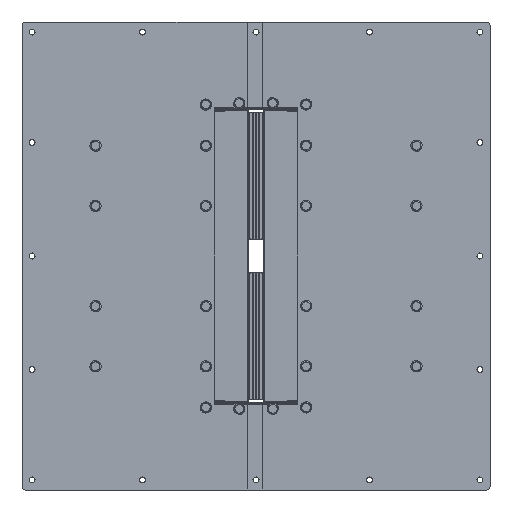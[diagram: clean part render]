
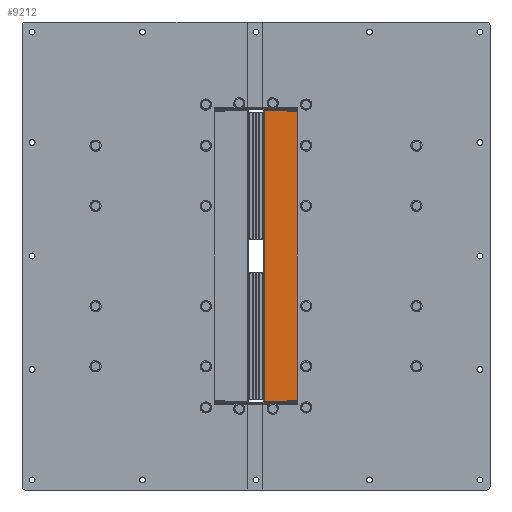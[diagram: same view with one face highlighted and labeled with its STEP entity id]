
A CAD part, left-side view. The second image highlights one B-rep face of the part: STEP entity #9212.
In plain terms, the highlighted planar face has unit normal (-1, 0, 0).
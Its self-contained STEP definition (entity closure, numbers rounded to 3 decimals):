
#8278=AXIS2_PLACEMENT_3D('Plane Axis2P3D',#8275,#8276,#8277) ;
#8412=AXIS2_PLACEMENT_3D('Circle Axis2P3D',#8410,#8411,$) ;
#8474=AXIS2_PLACEMENT_3D('Circle Axis2P3D',#8472,#8473,$) ;
#8750=AXIS2_PLACEMENT_3D('Circle Axis2P3D',#8748,#8749,$) ;
#8798=AXIS2_PLACEMENT_3D('Circle Axis2P3D',#8796,#8797,$) ;
#9106=AXIS2_PLACEMENT_3D('Circle Axis2P3D',#9104,#9105,$) ;
#9115=AXIS2_PLACEMENT_3D('Circle Axis2P3D',#9113,#9114,$) ;
#9124=AXIS2_PLACEMENT_3D('Circle Axis2P3D',#9122,#9123,$) ;
#9133=AXIS2_PLACEMENT_3D('Circle Axis2P3D',#9131,#9132,$) ;
#9142=AXIS2_PLACEMENT_3D('Circle Axis2P3D',#9140,#9141,$) ;
#9151=AXIS2_PLACEMENT_3D('Circle Axis2P3D',#9149,#9150,$) ;
#9160=AXIS2_PLACEMENT_3D('Circle Axis2P3D',#9158,#9159,$) ;
#9169=AXIS2_PLACEMENT_3D('Circle Axis2P3D',#9167,#9168,$) ;
#9178=AXIS2_PLACEMENT_3D('Circle Axis2P3D',#9176,#9177,$) ;
#9187=AXIS2_PLACEMENT_3D('Circle Axis2P3D',#9185,#9186,$) ;
#9196=AXIS2_PLACEMENT_3D('Circle Axis2P3D',#9194,#9195,$) ;
#9205=AXIS2_PLACEMENT_3D('Circle Axis2P3D',#9203,#9204,$) ;
#8275=CARTESIAN_POINT('Axis2P3D Location',(0.,0.,0.)) ;
#8316=CARTESIAN_POINT('Vertex',(0.,-60.,218.5)) ;
#8321=CARTESIAN_POINT('Line Origine',(0.,-60.,229.25)) ;
#8325=CARTESIAN_POINT('Vertex',(0.,-60.,240.)) ;
#8379=CARTESIAN_POINT('Line Origine',(0.,-69.,240.)) ;
#8383=CARTESIAN_POINT('Vertex',(0.,-78.,240.)) ;
#8410=CARTESIAN_POINT('Axis2P3D Location',(0.,-78.,235.)) ;
#8414=CARTESIAN_POINT('Vertex',(0.,-83.,235.)) ;
#8441=CARTESIAN_POINT('Line Origine',(0.,-83.,0.)) ;
#8445=CARTESIAN_POINT('Vertex',(0.,-83.,-235.)) ;
#8472=CARTESIAN_POINT('Axis2P3D Location',(0.,-78.,-235.)) ;
#8476=CARTESIAN_POINT('Vertex',(0.,-78.,-240.)) ;
#8503=CARTESIAN_POINT('Line Origine',(0.,-69.,-240.)) ;
#8507=CARTESIAN_POINT('Vertex',(0.,-60.,-240.)) ;
#8529=CARTESIAN_POINT('Line Origine',(0.,-60.,-229.25)) ;
#8533=CARTESIAN_POINT('Vertex',(0.,-60.,-218.5)) ;
#8573=CARTESIAN_POINT('Vertex',(0.,-57.5,217.)) ;
#8576=CARTESIAN_POINT('Line Origine',(0.,-57.5,217.75)) ;
#8580=CARTESIAN_POINT('Vertex',(0.,-57.5,218.5)) ;
#8611=CARTESIAN_POINT('Vertex',(0.,-13.82,217.)) ;
#8614=CARTESIAN_POINT('Line Origine',(0.,-35.66,217.)) ;
#8745=CARTESIAN_POINT('Vertex',(0.,-13.32,216.5)) ;
#8748=CARTESIAN_POINT('Axis2P3D Location',(0.,-13.82,216.5)) ;
#8769=CARTESIAN_POINT('Vertex',(0.,-13.32,-216.5)) ;
#8772=CARTESIAN_POINT('Line Origine',(0.,-13.32,0.)) ;
#8793=CARTESIAN_POINT('Vertex',(0.,-13.82,-217.)) ;
#8796=CARTESIAN_POINT('Axis2P3D Location',(0.,-13.82,-216.5)) ;
#8817=CARTESIAN_POINT('Vertex',(0.,-57.5,-217.)) ;
#8820=CARTESIAN_POINT('Line Origine',(0.,-35.66,-217.)) ;
#8836=CARTESIAN_POINT('Vertex',(0.,-57.5,-218.5)) ;
#8839=CARTESIAN_POINT('Line Origine',(0.,-57.5,-217.75)) ;
#8878=CARTESIAN_POINT('Line Origine',(0.,-58.75,-218.5)) ;
#8939=CARTESIAN_POINT('Line Origine',(0.,-58.75,218.5)) ;
#9104=CARTESIAN_POINT('Axis2P3D Location',(0.,-73.5,165.)) ;
#9108=CARTESIAN_POINT('Vertex',(0.,-79.,165.)) ;
#9110=CARTESIAN_POINT('Vertex',(0.,-68.,165.)) ;
#9113=CARTESIAN_POINT('Axis2P3D Location',(0.,-73.5,165.)) ;
#9122=CARTESIAN_POINT('Axis2P3D Location',(0.,-73.5,75.)) ;
#9126=CARTESIAN_POINT('Vertex',(0.,-79.,75.)) ;
#9128=CARTESIAN_POINT('Vertex',(0.,-68.,75.)) ;
#9131=CARTESIAN_POINT('Axis2P3D Location',(0.,-73.5,75.)) ;
#9140=CARTESIAN_POINT('Axis2P3D Location',(0.,-73.5,-75.)) ;
#9144=CARTESIAN_POINT('Vertex',(0.,-79.,-75.)) ;
#9146=CARTESIAN_POINT('Vertex',(0.,-68.,-75.)) ;
#9149=CARTESIAN_POINT('Axis2P3D Location',(0.,-73.5,-75.)) ;
#9158=CARTESIAN_POINT('Axis2P3D Location',(0.,-73.5,-165.)) ;
#9162=CARTESIAN_POINT('Vertex',(0.,-79.,-165.)) ;
#9164=CARTESIAN_POINT('Vertex',(0.,-68.,-165.)) ;
#9167=CARTESIAN_POINT('Axis2P3D Location',(0.,-73.5,-165.)) ;
#9176=CARTESIAN_POINT('Axis2P3D Location',(0.,-73.5,226.5)) ;
#9180=CARTESIAN_POINT('Vertex',(0.,-79.,226.5)) ;
#9182=CARTESIAN_POINT('Vertex',(0.,-68.,226.5)) ;
#9185=CARTESIAN_POINT('Axis2P3D Location',(0.,-73.5,226.5)) ;
#9194=CARTESIAN_POINT('Axis2P3D Location',(0.,-73.5,-226.5)) ;
#9198=CARTESIAN_POINT('Vertex',(0.,-79.,-226.5)) ;
#9200=CARTESIAN_POINT('Vertex',(0.,-68.,-226.5)) ;
#9203=CARTESIAN_POINT('Axis2P3D Location',(0.,-73.5,-226.5)) ;
#8276=DIRECTION('Axis2P3D Direction',(1.,0.,0.)) ;
#8277=DIRECTION('Axis2P3D XDirection',(0.,1.,0.)) ;
#8322=DIRECTION('Vector Direction',(0.,0.,-1.)) ;
#8380=DIRECTION('Vector Direction',(0.,-1.,0.)) ;
#8411=DIRECTION('Axis2P3D Direction',(1.,0.,0.)) ;
#8442=DIRECTION('Vector Direction',(0.,0.,1.)) ;
#8473=DIRECTION('Axis2P3D Direction',(1.,0.,0.)) ;
#8504=DIRECTION('Vector Direction',(0.,1.,0.)) ;
#8530=DIRECTION('Vector Direction',(0.,0.,-1.)) ;
#8577=DIRECTION('Vector Direction',(0.,0.,-1.)) ;
#8615=DIRECTION('Vector Direction',(0.,1.,0.)) ;
#8749=DIRECTION('Axis2P3D Direction',(1.,0.,0.)) ;
#8773=DIRECTION('Vector Direction',(0.,0.,1.)) ;
#8797=DIRECTION('Axis2P3D Direction',(1.,0.,0.)) ;
#8821=DIRECTION('Vector Direction',(0.,-1.,0.)) ;
#8840=DIRECTION('Vector Direction',(0.,0.,-1.)) ;
#8879=DIRECTION('Vector Direction',(0.,1.,0.)) ;
#8940=DIRECTION('Vector Direction',(0.,-1.,0.)) ;
#9105=DIRECTION('Axis2P3D Direction',(1.,0.,0.)) ;
#9114=DIRECTION('Axis2P3D Direction',(1.,0.,0.)) ;
#9123=DIRECTION('Axis2P3D Direction',(1.,0.,0.)) ;
#9132=DIRECTION('Axis2P3D Direction',(1.,0.,0.)) ;
#9141=DIRECTION('Axis2P3D Direction',(1.,0.,0.)) ;
#9150=DIRECTION('Axis2P3D Direction',(1.,0.,0.)) ;
#9159=DIRECTION('Axis2P3D Direction',(1.,0.,0.)) ;
#9168=DIRECTION('Axis2P3D Direction',(1.,0.,0.)) ;
#9177=DIRECTION('Axis2P3D Direction',(1.,0.,0.)) ;
#9186=DIRECTION('Axis2P3D Direction',(1.,0.,0.)) ;
#9195=DIRECTION('Axis2P3D Direction',(1.,0.,0.)) ;
#9204=DIRECTION('Axis2P3D Direction',(1.,0.,0.)) ;
#8323=VECTOR('Line Direction',#8322,1.) ;
#8381=VECTOR('Line Direction',#8380,1.) ;
#8443=VECTOR('Line Direction',#8442,1.) ;
#8505=VECTOR('Line Direction',#8504,1.) ;
#8531=VECTOR('Line Direction',#8530,1.) ;
#8578=VECTOR('Line Direction',#8577,1.) ;
#8616=VECTOR('Line Direction',#8615,1.) ;
#8774=VECTOR('Line Direction',#8773,1.) ;
#8822=VECTOR('Line Direction',#8821,1.) ;
#8841=VECTOR('Line Direction',#8840,1.) ;
#8880=VECTOR('Line Direction',#8879,1.) ;
#8941=VECTOR('Line Direction',#8940,1.) ;
#9087=ORIENTED_EDGE('',*,*,#8582,.T.) ;
#9088=ORIENTED_EDGE('',*,*,#8618,.T.) ;
#9089=ORIENTED_EDGE('',*,*,#8752,.T.) ;
#9090=ORIENTED_EDGE('',*,*,#8776,.T.) ;
#9091=ORIENTED_EDGE('',*,*,#8800,.T.) ;
#9092=ORIENTED_EDGE('',*,*,#8824,.T.) ;
#9093=ORIENTED_EDGE('',*,*,#8843,.T.) ;
#9094=ORIENTED_EDGE('',*,*,#8882,.F.) ;
#9095=ORIENTED_EDGE('',*,*,#8535,.F.) ;
#9096=ORIENTED_EDGE('',*,*,#8509,.F.) ;
#9097=ORIENTED_EDGE('',*,*,#8478,.F.) ;
#9098=ORIENTED_EDGE('',*,*,#8447,.F.) ;
#9099=ORIENTED_EDGE('',*,*,#8416,.F.) ;
#9100=ORIENTED_EDGE('',*,*,#8385,.F.) ;
#9101=ORIENTED_EDGE('',*,*,#8327,.F.) ;
#9102=ORIENTED_EDGE('',*,*,#8943,.F.) ;
#9119=ORIENTED_EDGE('',*,*,#9112,.T.) ;
#9120=ORIENTED_EDGE('',*,*,#9117,.T.) ;
#9137=ORIENTED_EDGE('',*,*,#9130,.T.) ;
#9138=ORIENTED_EDGE('',*,*,#9135,.T.) ;
#9155=ORIENTED_EDGE('',*,*,#9148,.T.) ;
#9156=ORIENTED_EDGE('',*,*,#9153,.T.) ;
#9173=ORIENTED_EDGE('',*,*,#9166,.T.) ;
#9174=ORIENTED_EDGE('',*,*,#9171,.T.) ;
#9191=ORIENTED_EDGE('',*,*,#9184,.T.) ;
#9192=ORIENTED_EDGE('',*,*,#9189,.T.) ;
#9209=ORIENTED_EDGE('',*,*,#9202,.T.) ;
#9210=ORIENTED_EDGE('',*,*,#9207,.T.) ;
#9121=FACE_BOUND('',#9118,.T.) ;
#9139=FACE_BOUND('',#9136,.T.) ;
#9157=FACE_BOUND('',#9154,.T.) ;
#9175=FACE_BOUND('',#9172,.T.) ;
#9193=FACE_BOUND('',#9190,.T.) ;
#9211=FACE_BOUND('',#9208,.T.) ;
#9212=ADVANCED_FACE('Laterale(L3)',(#9103,#9121,#9139,#9157,#9175,#9193,#9211),#8279,.F.) ;
#8413=CIRCLE('generated circle',#8412,5.) ;
#8475=CIRCLE('generated circle',#8474,5.) ;
#8751=CIRCLE('generated circle',#8750,0.5) ;
#8799=CIRCLE('generated circle',#8798,0.5) ;
#9107=CIRCLE('generated circle',#9106,5.5) ;
#9116=CIRCLE('generated circle',#9115,5.5) ;
#9125=CIRCLE('generated circle',#9124,5.5) ;
#9134=CIRCLE('generated circle',#9133,5.5) ;
#9143=CIRCLE('generated circle',#9142,5.5) ;
#9152=CIRCLE('generated circle',#9151,5.5) ;
#9161=CIRCLE('generated circle',#9160,5.5) ;
#9170=CIRCLE('generated circle',#9169,5.5) ;
#9179=CIRCLE('generated circle',#9178,5.5) ;
#9188=CIRCLE('generated circle',#9187,5.5) ;
#9197=CIRCLE('generated circle',#9196,5.5) ;
#9206=CIRCLE('generated circle',#9205,5.5) ;
#8327=EDGE_CURVE('',#8317,#8326,#8324,.F.) ;
#8385=EDGE_CURVE('',#8326,#8384,#8382,.T.) ;
#8416=EDGE_CURVE('',#8384,#8415,#8413,.T.) ;
#8447=EDGE_CURVE('',#8415,#8446,#8444,.F.) ;
#8478=EDGE_CURVE('',#8446,#8477,#8475,.T.) ;
#8509=EDGE_CURVE('',#8477,#8508,#8506,.T.) ;
#8535=EDGE_CURVE('',#8508,#8534,#8532,.F.) ;
#8582=EDGE_CURVE('',#8581,#8574,#8579,.T.) ;
#8618=EDGE_CURVE('',#8574,#8612,#8617,.T.) ;
#8752=EDGE_CURVE('',#8612,#8746,#8751,.F.) ;
#8776=EDGE_CURVE('',#8746,#8770,#8775,.F.) ;
#8800=EDGE_CURVE('',#8770,#8794,#8799,.F.) ;
#8824=EDGE_CURVE('',#8794,#8818,#8823,.T.) ;
#8843=EDGE_CURVE('',#8818,#8837,#8842,.T.) ;
#8882=EDGE_CURVE('',#8534,#8837,#8881,.T.) ;
#8943=EDGE_CURVE('',#8581,#8317,#8942,.T.) ;
#9112=EDGE_CURVE('',#9109,#9111,#9107,.T.) ;
#9117=EDGE_CURVE('',#9111,#9109,#9116,.T.) ;
#9130=EDGE_CURVE('',#9127,#9129,#9125,.T.) ;
#9135=EDGE_CURVE('',#9129,#9127,#9134,.T.) ;
#9148=EDGE_CURVE('',#9145,#9147,#9143,.T.) ;
#9153=EDGE_CURVE('',#9147,#9145,#9152,.T.) ;
#9166=EDGE_CURVE('',#9163,#9165,#9161,.T.) ;
#9171=EDGE_CURVE('',#9165,#9163,#9170,.T.) ;
#9184=EDGE_CURVE('',#9181,#9183,#9179,.T.) ;
#9189=EDGE_CURVE('',#9183,#9181,#9188,.T.) ;
#9202=EDGE_CURVE('',#9199,#9201,#9197,.T.) ;
#9207=EDGE_CURVE('',#9201,#9199,#9206,.T.) ;
#9086=EDGE_LOOP('',(#9087,#9088,#9089,#9090,#9091,#9092,#9093,#9094,#9095,#9096,#9097,#9098,#9099,#9100,#9101,#9102)) ;
#9118=EDGE_LOOP('',(#9119,#9120)) ;
#9136=EDGE_LOOP('',(#9137,#9138)) ;
#9154=EDGE_LOOP('',(#9155,#9156)) ;
#9172=EDGE_LOOP('',(#9173,#9174)) ;
#9190=EDGE_LOOP('',(#9191,#9192)) ;
#9208=EDGE_LOOP('',(#9209,#9210)) ;
#9103=FACE_OUTER_BOUND('',#9086,.T.) ;
#8324=LINE('Line',#8321,#8323) ;
#8382=LINE('Line',#8379,#8381) ;
#8444=LINE('Line',#8441,#8443) ;
#8506=LINE('Line',#8503,#8505) ;
#8532=LINE('Line',#8529,#8531) ;
#8579=LINE('Line',#8576,#8578) ;
#8617=LINE('Line',#8614,#8616) ;
#8775=LINE('Line',#8772,#8774) ;
#8823=LINE('Line',#8820,#8822) ;
#8842=LINE('Line',#8839,#8841) ;
#8881=LINE('Line',#8878,#8880) ;
#8942=LINE('Line',#8939,#8941) ;
#8279=PLANE('',#8278) ;
#8317=VERTEX_POINT('',#8316) ;
#8326=VERTEX_POINT('',#8325) ;
#8384=VERTEX_POINT('',#8383) ;
#8415=VERTEX_POINT('',#8414) ;
#8446=VERTEX_POINT('',#8445) ;
#8477=VERTEX_POINT('',#8476) ;
#8508=VERTEX_POINT('',#8507) ;
#8534=VERTEX_POINT('',#8533) ;
#8574=VERTEX_POINT('',#8573) ;
#8581=VERTEX_POINT('',#8580) ;
#8612=VERTEX_POINT('',#8611) ;
#8746=VERTEX_POINT('',#8745) ;
#8770=VERTEX_POINT('',#8769) ;
#8794=VERTEX_POINT('',#8793) ;
#8818=VERTEX_POINT('',#8817) ;
#8837=VERTEX_POINT('',#8836) ;
#9109=VERTEX_POINT('',#9108) ;
#9111=VERTEX_POINT('',#9110) ;
#9127=VERTEX_POINT('',#9126) ;
#9129=VERTEX_POINT('',#9128) ;
#9145=VERTEX_POINT('',#9144) ;
#9147=VERTEX_POINT('',#9146) ;
#9163=VERTEX_POINT('',#9162) ;
#9165=VERTEX_POINT('',#9164) ;
#9181=VERTEX_POINT('',#9180) ;
#9183=VERTEX_POINT('',#9182) ;
#9199=VERTEX_POINT('',#9198) ;
#9201=VERTEX_POINT('',#9200) ;
